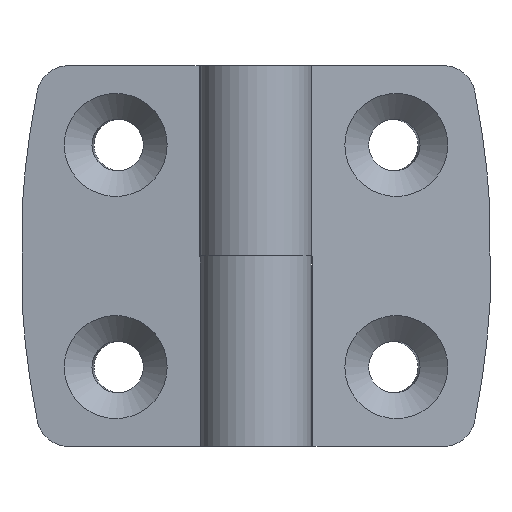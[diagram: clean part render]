
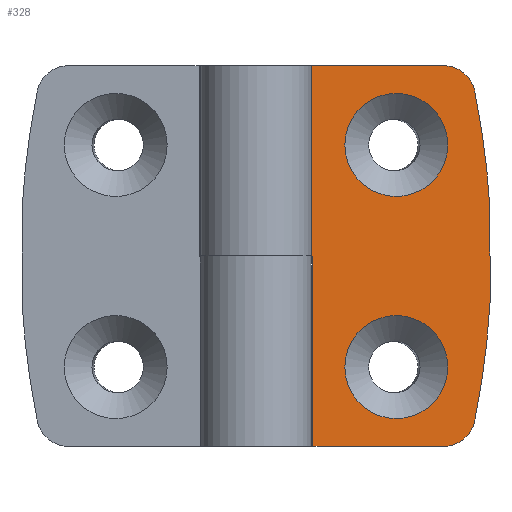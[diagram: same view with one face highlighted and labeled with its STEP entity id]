
A CAD part, top view. The second image highlights one B-rep face of the part: STEP entity #328.
In plain terms, the highlighted planar face has unit normal (0.075, 0, 0.997) as drawn and (-0.075, 0.997, 0) by its records, which use the part's own axes.
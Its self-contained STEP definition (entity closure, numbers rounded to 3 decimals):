
#88=CARTESIAN_POINT('',(-7.183,2.487,24.0));
#89=VERTEX_POINT('',#88);
#90=CARTESIAN_POINT('',(-7.183,2.487,0.0));
#91=VERTEX_POINT('',#90);
#92=CARTESIAN_POINT('',(-7.183,2.487,24.0));
#93=DIRECTION('',(0.0,0.0,-1.0));
#94=VECTOR('',#93,24.0);
#95=LINE('',#92,#94);
#96=EDGE_CURVE('',#89,#91,#95,.T.);
#128=CARTESIAN_POINT('',(-7.017,2.5,24.0));
#129=VERTEX_POINT('',#128);
#130=CARTESIAN_POINT('',(-7.017,2.5,24.0));
#131=DIRECTION('',(-0.997,-0.075,0.0));
#132=VECTOR('',#131,0.167);
#133=LINE('',#130,#132);
#134=EDGE_CURVE('',#129,#89,#133,.T.);
#213=CARTESIAN_POINT('',(-7.017,2.5,48.));
#214=VERTEX_POINT('',#213);
#215=CARTESIAN_POINT('',(-7.017,2.5,24.0));
#216=DIRECTION('',(0.0,0.0,1.0));
#217=VECTOR('',#216,24.);
#218=LINE('',#215,#217);
#219=EDGE_CURVE('',#129,#214,#218,.T.);
#238=CARTESIAN_POINT('',(-29.5,0.8,0.0));
#239=DIRECTION('',(-0.075,0.997,0.0));
#240=DIRECTION('',(0.0,0.0,1.0));
#241=AXIS2_PLACEMENT_3D('',#238,#239,#240);
#242=PLANE('',#241);
#243=ORIENTED_EDGE('',*,*,#134,.T.);
#244=ORIENTED_EDGE('',*,*,#96,.T.);
#245=CARTESIAN_POINT('',(-23.661,1.241,0.0));
#246=VERTEX_POINT('',#245);
#247=CARTESIAN_POINT('',(-7.183,2.487,0.0));
#248=DIRECTION('',(-0.997,-0.075,0.0));
#249=VECTOR('',#248,16.525);
#250=LINE('',#247,#249);
#251=EDGE_CURVE('',#91,#246,#250,.T.);
#252=ORIENTED_EDGE('',*,*,#251,.T.);
#253=CARTESIAN_POINT('',(-27.569,0.946,3.2));
#254=VERTEX_POINT('',#253);
#255=CARTESIAN_POINT('',(-23.661,1.241,4.));
#256=DIRECTION('',(0.075,-0.997,0.));
#257=DIRECTION('',(-0.631,-0.048,-0.775));
#258=AXIS2_PLACEMENT_3D('',#255,#256,#257);
#259=CIRCLE('',#258,4.0);
#260=EDGE_CURVE('',#254,#246,#259,.T.);
#261=ORIENTED_EDGE('',*,*,#260,.F.);
#262=CARTESIAN_POINT('',(-29.5,0.8,18.157));
#263=VERTEX_POINT('',#262);
#264=CARTESIAN_POINT('',(74.079,8.632,24.));
#265=DIRECTION('',(-0.075,0.997,0.0));
#266=DIRECTION('',(0.97,0.073,0.231));
#267=AXIS2_PLACEMENT_3D('',#264,#265,#266);
#268=CIRCLE('',#267,104.039);
#269=EDGE_CURVE('',#254,#263,#268,.T.);
#270=ORIENTED_EDGE('',*,*,#269,.T.);
#271=CARTESIAN_POINT('',(-29.5,0.8,29.843));
#272=VERTEX_POINT('',#271);
#273=CARTESIAN_POINT('',(-29.5,0.8,18.157));
#274=DIRECTION('',(0.0,0.0,1.0));
#275=VECTOR('',#274,11.687);
#276=LINE('',#273,#275);
#277=EDGE_CURVE('',#263,#272,#276,.T.);
#278=ORIENTED_EDGE('',*,*,#277,.T.);
#279=CARTESIAN_POINT('',(-27.569,0.946,44.8));
#280=VERTEX_POINT('',#279);
#281=CARTESIAN_POINT('',(74.079,8.632,24.));
#282=DIRECTION('',(-0.075,0.997,0.0));
#283=DIRECTION('',(0.97,0.073,0.231));
#284=AXIS2_PLACEMENT_3D('',#281,#282,#283);
#285=CIRCLE('',#284,104.039);
#286=EDGE_CURVE('',#272,#280,#285,.T.);
#287=ORIENTED_EDGE('',*,*,#286,.T.);
#288=CARTESIAN_POINT('',(-23.661,1.241,48.));
#289=VERTEX_POINT('',#288);
#290=CARTESIAN_POINT('',(-23.661,1.241,44.));
#291=DIRECTION('',(0.075,-0.997,0.));
#292=DIRECTION('',(-0.631,-0.048,0.775));
#293=AXIS2_PLACEMENT_3D('',#290,#291,#292);
#294=CIRCLE('',#293,4.0);
#295=EDGE_CURVE('',#289,#280,#294,.T.);
#296=ORIENTED_EDGE('',*,*,#295,.F.);
#297=CARTESIAN_POINT('',(-23.661,1.241,48.));
#298=DIRECTION('',(0.997,0.075,0.0));
#299=VECTOR('',#298,16.692);
#300=LINE('',#297,#299);
#301=EDGE_CURVE('',#289,#214,#300,.T.);
#302=ORIENTED_EDGE('',*,*,#301,.T.);
#303=ORIENTED_EDGE('',*,*,#219,.F.);
#304=EDGE_LOOP('',(#243,#244,#252,#261,#270,#278,#287,#296,#302,#303));
#305=FACE_OUTER_BOUND('',#304,.T.);
#306=CARTESIAN_POINT('',(-11.205,2.183,38.));
#307=VERTEX_POINT('',#306);
#308=CARTESIAN_POINT('',(-17.686,1.693,38.));
#309=DIRECTION('',(0.075,-0.997,0.0));
#310=DIRECTION('',(0.997,0.075,0.0));
#311=AXIS2_PLACEMENT_3D('',#308,#309,#310);
#312=CIRCLE('',#311,6.5);
#313=EDGE_CURVE('',#307,#307,#312,.T.);
#314=ORIENTED_EDGE('',*,*,#313,.T.);
#315=EDGE_LOOP('',(#314));
#316=FACE_BOUND('',#315,.T.);
#317=CARTESIAN_POINT('',(-11.205,2.183,10.));
#318=VERTEX_POINT('',#317);
#319=CARTESIAN_POINT('',(-17.686,1.693,10.));
#320=DIRECTION('',(0.075,-0.997,0.0));
#321=DIRECTION('',(0.997,0.075,0.0));
#322=AXIS2_PLACEMENT_3D('',#319,#320,#321);
#323=CIRCLE('',#322,6.5);
#324=EDGE_CURVE('',#318,#318,#323,.T.);
#325=ORIENTED_EDGE('',*,*,#324,.T.);
#326=EDGE_LOOP('',(#325));
#327=FACE_BOUND('',#326,.T.);
#328=ADVANCED_FACE('',(#305,#316,#327),#242,.T.);
